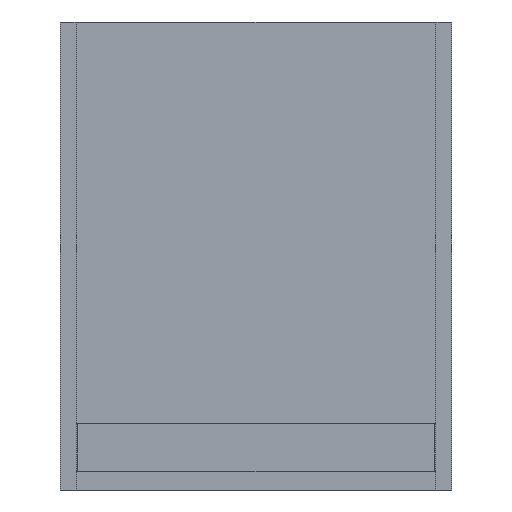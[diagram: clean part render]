
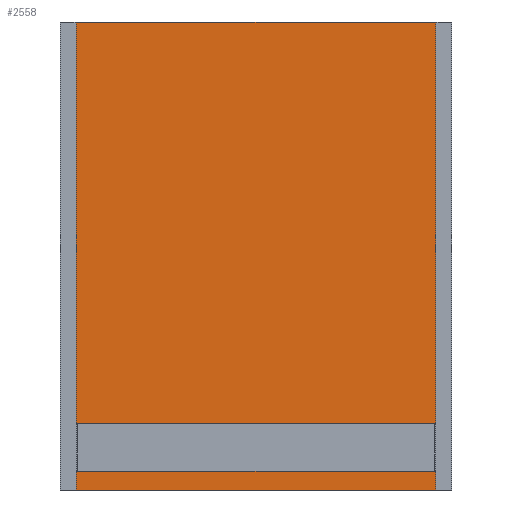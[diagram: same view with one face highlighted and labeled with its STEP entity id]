
A CAD part, front view. The second image highlights one B-rep face of the part: STEP entity #2558.
In plain terms, the highlighted planar face has unit normal (0, -1, 0).
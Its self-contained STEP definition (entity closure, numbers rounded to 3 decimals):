
#616 = DIRECTION ( 'NONE',  ( 0., 1., 0. ) ) ;
#641 = PLANE ( 'NONE',  #1676 ) ;
#642 = CARTESIAN_POINT ( 'NONE',  ( 206.5, -57.525, 500. ) ) ;
#755 = CARTESIAN_POINT ( 'NONE',  ( -206.5, -57.525, 500. ) ) ;
#756 = DIRECTION ( 'NONE',  ( 0., 0., -1. ) ) ;
#759 = VERTEX_POINT ( 'NONE', #1128 ) ;
#764 = VERTEX_POINT ( 'NONE', #1112 ) ;
#785 = VERTEX_POINT ( 'NONE', #1267 ) ;
#798 = CARTESIAN_POINT ( 'NONE',  ( 206.5, -57.525, 500. ) ) ;
#800 = DIRECTION ( 'NONE',  ( 0., 0., -1. ) ) ;
#809 = CARTESIAN_POINT ( 'NONE',  ( 206.5, -57.525, 0. ) ) ;
#816 = DIRECTION ( 'NONE',  ( 1., 0., 0. ) ) ;
#817 = DIRECTION ( 'NONE',  ( 1., 0., 0. ) ) ;
#851 = CARTESIAN_POINT ( 'NONE',  ( 206.5, -57.525, 500. ) ) ;
#913 = CARTESIAN_POINT ( 'NONE',  ( 206.5, -57.525, 500. ) ) ;
#1112 = CARTESIAN_POINT ( 'NONE',  ( -206.5, -57.525, 0. ) ) ;
#1128 = CARTESIAN_POINT ( 'NONE',  ( 206.5, -57.525, 0. ) ) ;
#1267 = CARTESIAN_POINT ( 'NONE',  ( -206.5, -57.525, 500. ) ) ;
#1469 = DIRECTION ( 'NONE',  ( -1., 0., 0. ) ) ;
#1545 = VERTEX_POINT ( 'NONE', #913 ) ;
#1676 = AXIS2_PLACEMENT_3D ( 'NONE', #642, #616, #1469 ) ;
#1935 = EDGE_CURVE ( 'NONE', #785, #764, #2241, .T. ) ;
#1937 = EDGE_CURVE ( 'NONE', #764, #759, #2237, .T. ) ;
#1938 = EDGE_CURVE ( 'NONE', #1545, #759, #2235, .T. ) ;
#1939 = EDGE_CURVE ( 'NONE', #785, #1545, #2233, .T. ) ;
#2031 = FACE_OUTER_BOUND ( 'NONE', #2819, .T. ) ;
#2232 = VECTOR ( 'NONE', #817, 1000. ) ;
#2233 = LINE ( 'NONE', #851, #2232 ) ;
#2234 = VECTOR ( 'NONE', #800, 1000. ) ;
#2235 = LINE ( 'NONE', #798, #2234 ) ;
#2236 = VECTOR ( 'NONE', #816, 1000. ) ;
#2237 = LINE ( 'NONE', #809, #2236 ) ;
#2240 = VECTOR ( 'NONE', #756, 1000. ) ;
#2241 = LINE ( 'NONE', #755, #2240 ) ;
#2558 = ADVANCED_FACE ( 'NONE', ( #2031 ), #641, .F. ) ;
#2819 = EDGE_LOOP ( 'NONE', ( #3036, #3037, #3038, #3039 ) ) ;
#3036 = ORIENTED_EDGE ( 'NONE', *, *, #1937, .T. ) ;
#3037 = ORIENTED_EDGE ( 'NONE', *, *, #1938, .F. ) ;
#3038 = ORIENTED_EDGE ( 'NONE', *, *, #1939, .F. ) ;
#3039 = ORIENTED_EDGE ( 'NONE', *, *, #1935, .T. ) ;
